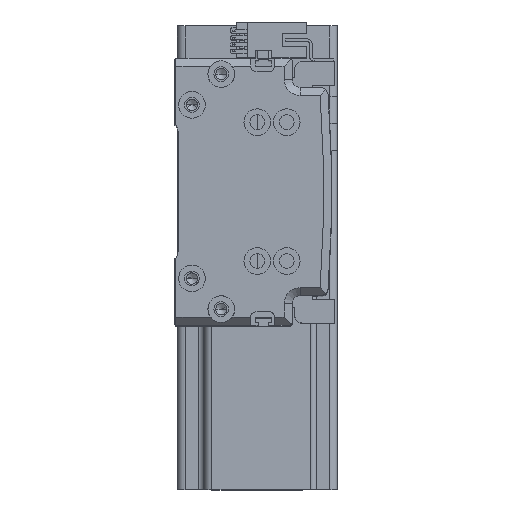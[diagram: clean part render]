
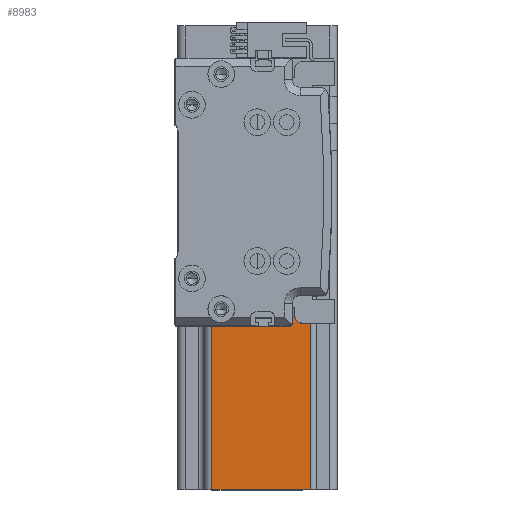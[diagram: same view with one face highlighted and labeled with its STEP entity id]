
A CAD part, top view. The second image highlights one B-rep face of the part: STEP entity #8983.
In plain terms, the highlighted planar face has unit normal (0, 0, 1) as drawn and (-1, 0, 0) by its records, which use the part's own axes.
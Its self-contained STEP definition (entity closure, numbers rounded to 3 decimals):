
#609 = VECTOR ( 'NONE', #35187, 1000. ) ;
#922 = ORIENTED_EDGE ( 'NONE', *, *, #26146, .T. ) ;
#1089 = VECTOR ( 'NONE', #23757, 1000. ) ;
#1160 = EDGE_CURVE ( 'NONE', #33567, #6864, #1402, .T. ) ;
#1185 = ORIENTED_EDGE ( 'NONE', *, *, #25159, .T. ) ;
#1200 = ORIENTED_EDGE ( 'NONE', *, *, #1541, .F. ) ;
#1402 = LINE ( 'NONE', #17693, #19675 ) ;
#1541 = EDGE_CURVE ( 'NONE', #6864, #40153, #34732, .T. ) ;
#1860 = EDGE_CURVE ( 'NONE', #33444, #43101, #21718, .T. ) ;
#3033 = CARTESIAN_POINT ( 'NONE',  ( -30., 20., 10. ) ) ;
#3266 = DIRECTION ( 'NONE',  ( 0., 0., -1. ) ) ;
#3664 = EDGE_CURVE ( 'NONE', #36498, #6210, #18888, .T. ) ;
#4420 = EDGE_CURVE ( 'NONE', #30245, #36498, #37592, .T. ) ;
#4442 = CARTESIAN_POINT ( 'NONE',  ( -30., 30., 10. ) ) ;
#4641 = CARTESIAN_POINT ( 'NONE',  ( -30., 27., 10. ) ) ;
#6210 = VERTEX_POINT ( 'NONE', #12591 ) ;
#6615 = PLANE ( 'NONE',  #30573 ) ;
#6728 = ORIENTED_EDGE ( 'NONE', *, *, #1160, .F. ) ;
#6864 = VERTEX_POINT ( 'NONE', #28382 ) ;
#7297 = DIRECTION ( 'NONE',  ( 0., 0., 1. ) ) ;
#8066 = VECTOR ( 'NONE', #14258, 1000. ) ;
#8983 = ADVANCED_FACE ( 'NONE', ( #43804 ), #6615, .F. ) ;
#9255 = DIRECTION ( 'NONE',  ( 0., -1., 0. ) ) ;
#11280 = LINE ( 'NONE', #44332, #1089 ) ;
#11975 = VECTOR ( 'NONE', #25096, 1000. ) ;
#11980 = EDGE_LOOP ( 'NONE', ( #15083, #34946, #1200, #6728, #1185, #20882, #36206, #922 ) ) ;
#12565 = VECTOR ( 'NONE', #24270, 1000. ) ;
#12591 = CARTESIAN_POINT ( 'NONE',  ( -30., -27., 0. ) ) ;
#14258 = DIRECTION ( 'NONE',  ( 0., 0., 1. ) ) ;
#15026 = LINE ( 'NONE', #34925, #8066 ) ;
#15083 = ORIENTED_EDGE ( 'NONE', *, *, #1860, .F. ) ;
#15955 = DIRECTION ( 'NONE',  ( 0., 0., -1. ) ) ;
#17693 = CARTESIAN_POINT ( 'NONE',  ( -30., 20., 10. ) ) ;
#18018 = CARTESIAN_POINT ( 'NONE',  ( -30., -30., 0. ) ) ;
#18888 = LINE ( 'NONE', #18018, #609 ) ;
#19675 = VECTOR ( 'NONE', #7297, 1000. ) ;
#20882 = ORIENTED_EDGE ( 'NONE', *, *, #4420, .T. ) ;
#21718 = LINE ( 'NONE', #31041, #12565 ) ;
#23566 = EDGE_CURVE ( 'NONE', #33444, #40153, #11280, .T. ) ;
#23757 = DIRECTION ( 'NONE',  ( 0., 0., 1. ) ) ;
#23938 = DIRECTION ( 'NONE',  ( 1., 0., 0. ) ) ;
#24270 = DIRECTION ( 'NONE',  ( 0., -1., 0. ) ) ;
#25096 = DIRECTION ( 'NONE',  ( 0., 1., 0. ) ) ;
#25159 = EDGE_CURVE ( 'NONE', #33567, #30245, #40560, .T. ) ;
#26037 = CARTESIAN_POINT ( 'NONE',  ( -30., -17., 137. ) ) ;
#26146 = EDGE_CURVE ( 'NONE', #6210, #43101, #15026, .T. ) ;
#26401 = CARTESIAN_POINT ( 'NONE',  ( -30., -30., 137. ) ) ;
#27413 = CARTESIAN_POINT ( 'NONE',  ( -30., -27., 10. ) ) ;
#28382 = CARTESIAN_POINT ( 'NONE',  ( -30., 20., 137. ) ) ;
#28441 = VECTOR ( 'NONE', #15955, 1000. ) ;
#29990 = CARTESIAN_POINT ( 'NONE',  ( -30., -17., 10. ) ) ;
#30245 = VERTEX_POINT ( 'NONE', #4641 ) ;
#30573 = AXIS2_PLACEMENT_3D ( 'NONE', #44514, #23938, #3266 ) ;
#31041 = CARTESIAN_POINT ( 'NONE',  ( -30., -30., 10. ) ) ;
#33444 = VERTEX_POINT ( 'NONE', #29990 ) ;
#33567 = VERTEX_POINT ( 'NONE', #3033 ) ;
#34732 = LINE ( 'NONE', #26401, #43877 ) ;
#34925 = CARTESIAN_POINT ( 'NONE',  ( -30., -27., 137. ) ) ;
#34946 = ORIENTED_EDGE ( 'NONE', *, *, #23566, .T. ) ;
#35187 = DIRECTION ( 'NONE',  ( 0., -1., 0. ) ) ;
#36206 = ORIENTED_EDGE ( 'NONE', *, *, #3664, .T. ) ;
#36498 = VERTEX_POINT ( 'NONE', #44134 ) ;
#36626 = CARTESIAN_POINT ( 'NONE',  ( -30., 27., 137. ) ) ;
#37592 = LINE ( 'NONE', #36626, #28441 ) ;
#40153 = VERTEX_POINT ( 'NONE', #26037 ) ;
#40560 = LINE ( 'NONE', #4442, #11975 ) ;
#43101 = VERTEX_POINT ( 'NONE', #27413 ) ;
#43804 = FACE_OUTER_BOUND ( 'NONE', #11980, .T. ) ;
#43877 = VECTOR ( 'NONE', #9255, 1000. ) ;
#44134 = CARTESIAN_POINT ( 'NONE',  ( -30., 27., 0. ) ) ;
#44332 = CARTESIAN_POINT ( 'NONE',  ( -30., -17., 137. ) ) ;
#44514 = CARTESIAN_POINT ( 'NONE',  ( -30., -30., 137. ) ) ;
